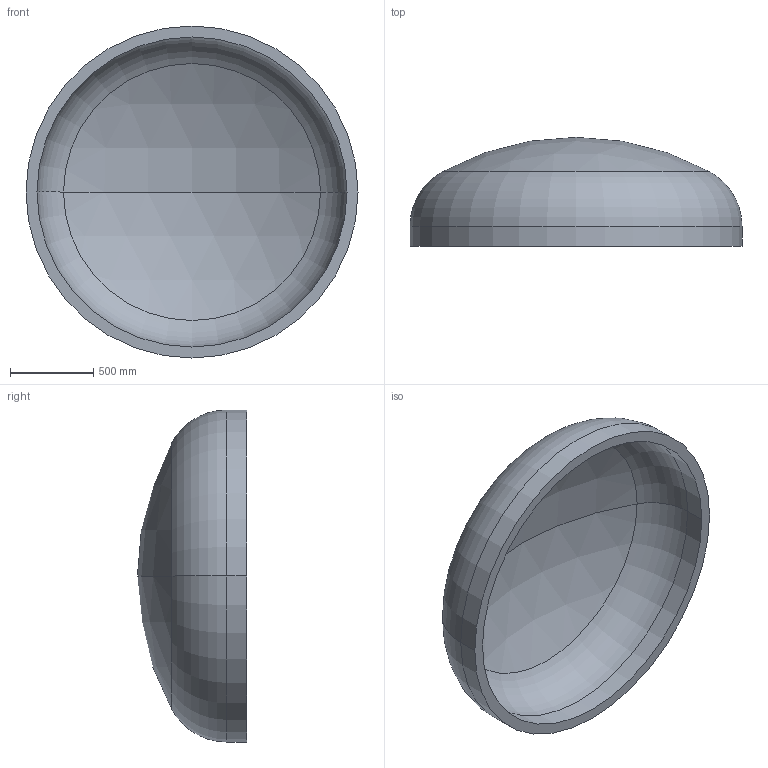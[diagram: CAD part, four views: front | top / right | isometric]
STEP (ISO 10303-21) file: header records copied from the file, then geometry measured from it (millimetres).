
FILE_DESCRIPTION (( 'STEP AP203' ), '1' );
FILE_NAME ('DIN 28013 Korbbogenform_-_Boden DIN 28013 - 2000 x 120 - I - s=66.step', '2016-07-01T14:01:04', ( '' ), ( '' ), 'SwSTEP 2.0', 'SolidWorks 2013', '' );
FILE_SCHEMA (( 'CONFIG_CONTROL_DESIGN' ));
Length unit declared in the file: millimetre
Products named in the file (1): DIN 28013 Korbbogenform_-_Boden DIN 28013 - 2000 x 120 - I - s=66
Bounding box: 2000 x 656.96 x 2000 mm (x, y, z)
Volume: 323562366.3 mm3; surface area: 10215045.9 mm2
Topology: 1 solids, 1 shells, 13 faces, 24 edges, 14 vertices
Faces by surface type: torus 4, cylinder 4, sphere 4, plane 1
Entity records: 407 total; most frequent: DIRECTION 72, CARTESIAN_POINT 52, ORIENTED_EDGE 48, AXIS2_PLACEMENT_3D 34, EDGE_CURVE 24, CIRCLE 20, VERTEX_POINT 14, EDGE_LOOP 14
